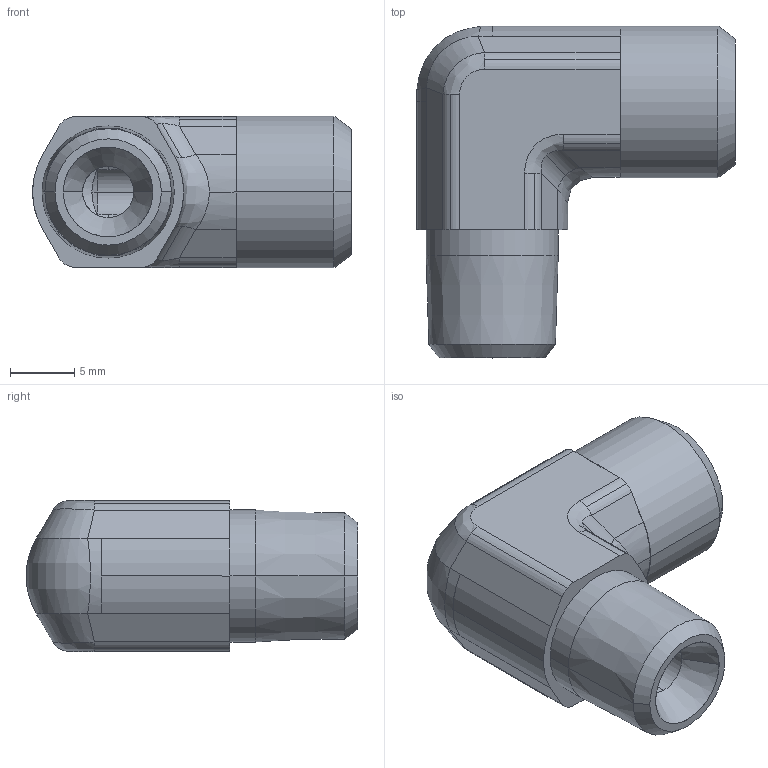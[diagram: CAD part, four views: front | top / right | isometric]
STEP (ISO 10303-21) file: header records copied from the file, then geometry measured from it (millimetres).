
FILE_DESCRIPTION((''),'2;1');
FILE_NAME('102204.stp','2007-10-31T10:29:36',(''),(''),'AutoCAD STEP 2000i','AutoCAD 2000i',', , ');
FILE_SCHEMA(('CONFIG_CONTROL_DESIGN'));
Length unit declared in the file: millimetre
Products named in the file (2): 102204.0; 3090#0
Assembly tree (1 placements, depth 2):
  102204.0
    3090#0
Bounding box: 24.9 x 25.93 x 11.85 mm (x, y, z)
Volume: 3364 mm3; surface area: 2078.8 mm2
Topology: 1 solids, 1 shells, 101 faces, 232 edges, 135 vertices
Faces by surface type: cylinder 44, plane 22, cone 21, bspline 14
Entity records: 3700 total; most frequent: CARTESIAN_POINT 1306, DIRECTION 513, ORIENTED_EDGE 464, EDGE_CURVE 232, AXIS2_PLACEMENT_3D 212, VERTEX_POINT 135, CIRCLE 105, EDGE_LOOP 105
